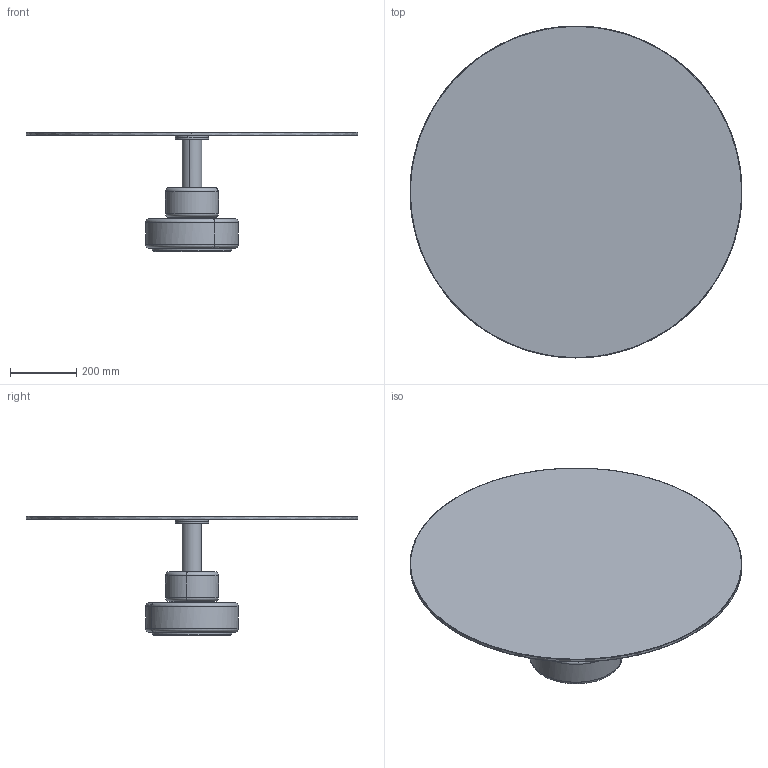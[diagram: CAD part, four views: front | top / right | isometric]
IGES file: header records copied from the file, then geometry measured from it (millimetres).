
Global section: file name: \\FS\Gruppi\Tec-R&D-Ope\BLOCCHI 2D-3D\_ACERBIS\MENHIR\Top Vetro\3D\Menhir top vetro D.1000.igs; native system: Rhinoceros ( Feb 27 2023 ); preprocessor: Trout Lake IGES 012 Feb 27 2023; date: 230525.065925; units: millimetre
Bounding box: 999.64 x 999.99 x 361 mm (x, y, z)
Surface area: 2236924 mm2 (no closed solid volume)
Topology: 0 solids, 0 shells, 165 faces, 768 edges, 768 vertices
Faces by surface type: bspline 165
